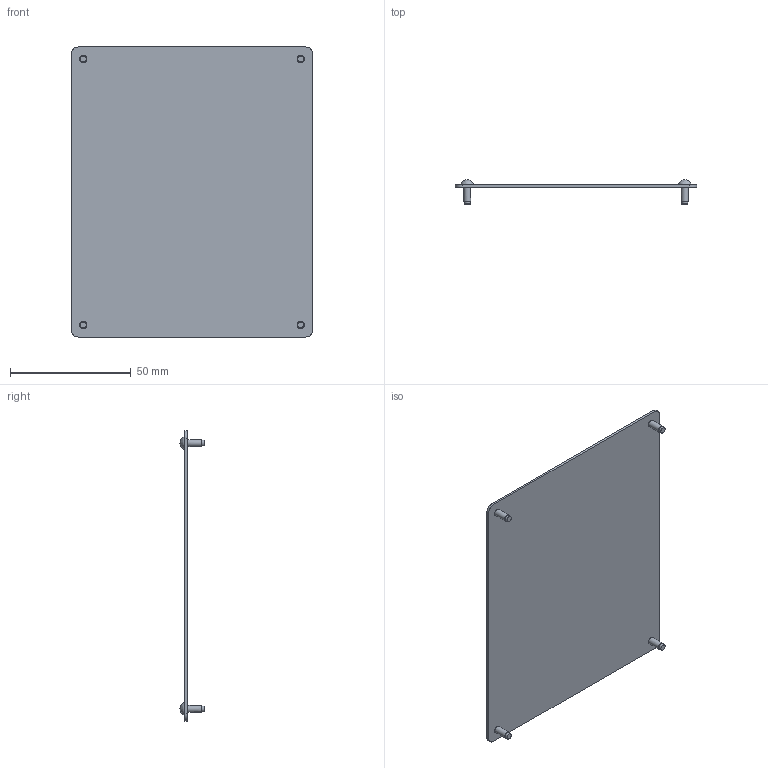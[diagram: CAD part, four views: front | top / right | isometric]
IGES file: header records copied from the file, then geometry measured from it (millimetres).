
Start section: VISI Layer Mapping Iges    VISI  0      LAYER0  1      WARNINGS
Global section: file name: G:\Produktkommunikation\Support\CD-Online-Katalog\3D Daten Produkte\E19100\STEP\E19100_120100_1_4.igs; native system: VISI 20.0; preprocessor: 2.0; author: nus; organization: Unknown; date: 20140919.095606; units: millimetre
Bounding box: 100 x 10.1 x 120 mm (x, y, z)
Surface area: 24924.6 mm2 (no closed solid volume)
Topology: 0 solids, 0 shells, 38 faces, 632 edges, 608 vertices
Faces by surface type: bspline 38
